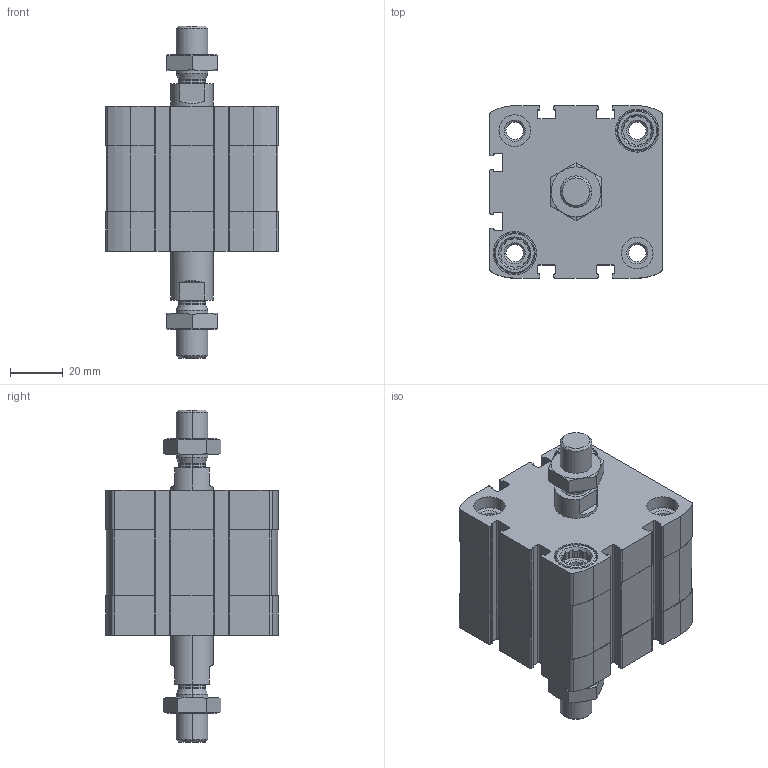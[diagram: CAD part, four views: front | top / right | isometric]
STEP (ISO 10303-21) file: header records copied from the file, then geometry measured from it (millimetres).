
FILE_DESCRIPTION (( 'STEP AP203' ), '1' );
FILE_NAME ('CCN50-10-P.STEP', '2020-06-22T18:55:42', ( '' ), ( '' ), 'SwSTEP 2.0', 'SolidWorks 2019', '' );
FILE_SCHEMA (( 'CONFIG_CONTROL_DESIGN' ));
Length unit declared in the file: millimetre
Products named in the file (1): CCN50-10-P
Bounding box: 65.5 x 65.5 x 126 mm (x, y, z)
Volume: 204391.3 mm3; surface area: 55961.3 mm2
Topology: 4 solids, 4 shells, 528 faces, 1392 edges, 904 vertices
Faces by surface type: plane 240, cylinder 220, cone 60, torus 8
Entity records: 17219 total; most frequent: CARTESIAN_POINT 3821, DIRECTION 2842, ORIENTED_EDGE 2784, EDGE_CURVE 1392, AXIS2_PLACEMENT_3D 1045, VERTEX_POINT 904, LINE 752, VECTOR 752
